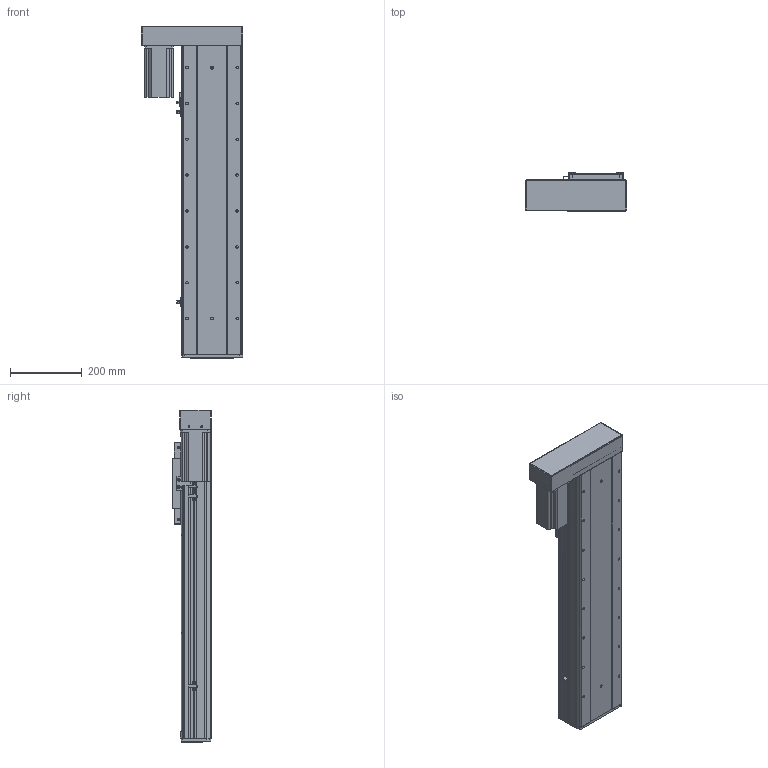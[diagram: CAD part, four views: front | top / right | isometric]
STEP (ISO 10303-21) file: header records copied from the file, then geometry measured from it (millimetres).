
FILE_DESCRIPTION (( 'STEP AP203' ), '1' );
FILE_NAME ('RY170F-L2020-300-LK.SLDASM_550.step', '2021-03-02T09:00:31', ( '盈信电脑' ), ( '东莞市道滘镇水果街19号' ), 'SwSTEP 2.0', 'SolidWorks 2012', '' );
FILE_SCHEMA (( 'CONFIG_CONTROL_DESIGN' ));
Length unit declared in the file: millimetre
Products named in the file (20): RY170F-L2020-300-LK.SLDASM_550; RY170F-酘衵殏萇儂釱; 怢湛750W萇儂ㄗ80遺ㄘ; RY170F酘衵殏萇儂欶; RY170F-蛌殏萇儂假蚾啣; 侐源滅袉蝶; 滅袉蝶18-24; RY170F-詩湍揤踡輸; RY170F俋离覜茼え; RY170F-揤踡謫假蚾粣; RY170F-綴裔啣; 覜茼ん672; RY170F-300眻蟀倰第奻裔啣-LK_550; RY170F-丝杆铝滑块连接板; RY100F-詩湍揤踡謫; 滅袉蝶18-10; RY170F-佪裝臏賑輸20蹟譫; RY170F-300眻蟀祥凄詩湍-LK_550; RY170F-300眻蟀倰第菁釱-LK_550; RY170F-滅鳥奻裔
Assembly tree (24 placements, depth 2):
  RY170F-L2020-300-LK.SLDASM_550
    RY170F-滅鳥奻裔
    RY170F-300眻蟀祥凄詩湍-LK_550
    RY170F-300眻蟀倰第菁釱-LK_550
    RY170F-佪裝臏賑輸20蹟譫
    RY170F-丝杆铝滑块连接板
    RY170F-300眻蟀倰第奻裔啣-LK_550  x2
    滅袉蝶18-10
    RY100F-詩湍揤踡謫
    RY170F-綴裔啣
    覜茼ん672  x3
    RY170F俋离覜茼え
    RY170F-揤踡謫假蚾粣
    RY170F-詩湍揤踡輸  x2
    滅袉蝶18-24
    侐源滅袉蝶  x2
    RY170F-酘衵殏萇儂釱
    RY170F-蛌殏萇儂假蚾啣
    怢湛750W萇儂ㄗ80遺ㄘ
    RY170F酘衵殏萇儂欶
Bounding box: 283 x 107 x 926 mm (x, y, z)
Volume: 6042326.2 mm3; surface area: 1910790.9 mm2
Topology: 24 solids, 24 shells, 1833 faces, 5082 edges, 3226 vertices
Faces by surface type: cylinder 865, plane 760, cone 200, bspline 8
Entity records: 52543 total; most frequent: CARTESIAN_POINT 10614, DIRECTION 8499, ORIENTED_EDGE 8112, EDGE_CURVE 4056, AXIS2_PLACEMENT_3D 3061, VERTEX_POINT 2646, LINE 2377, VECTOR 2377
